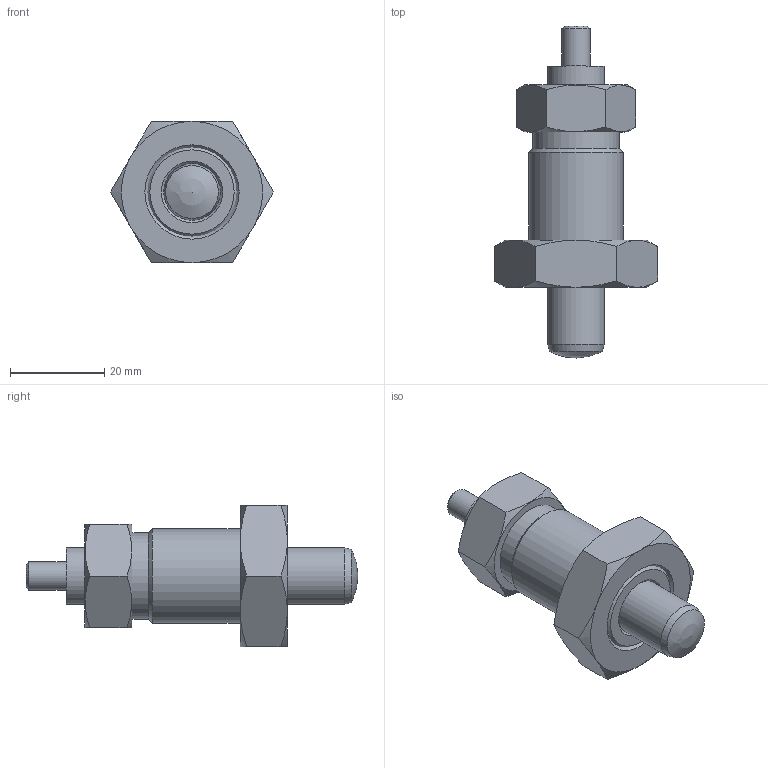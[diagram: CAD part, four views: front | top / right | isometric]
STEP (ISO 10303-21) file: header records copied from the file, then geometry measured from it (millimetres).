
FILE_DESCRIPTION( ( 'STEP AP203' ), '1' );
FILE_NAME( 'C:/Temp/Ganter_Step_05_03_2020/data/3_1/gn817/gn817_ni-rastbolzen/Stainless Steel-Indexing plunger GN 817-12-15-GK-NI (deactivated-0).stp', '2020-03-12T09:00:07', ( 'License CC BY-ND 4.0' ), ( 'CADENAS' ), ' ', 'PARTsolutions', ' ' );
FILE_SCHEMA( ( 'CONFIG_CONTROL_DESIGN' ) );
Length unit declared in the file: millimetre
Products named in the file (5): Stainless Steel-Indexing plunger GN 817-12-15-GK-NI (deactivated-0); _Stainless steel-Indexing plunger GN 817-12-15-GK-NI (deactivated-0)-d; _Stainless steel-Indexing plunger GN 817-12-15-B-NI-2; _Stainless Steel-Indexing plunger GN 817-12-15-G-NI-6; _Stainless steel-Indexing plunger GN 817-12-15-BK-NI (deactivated-0)-3
Assembly tree (4 placements, depth 2):
  Stainless Steel-Indexing plunger GN 817-12-15-GK-NI (deactivated-0)
    _Stainless steel-Indexing plunger GN 817-12-15-GK-NI (deactivated-0)-d
    _Stainless steel-Indexing plunger GN 817-12-15-B-NI-2
    _Stainless Steel-Indexing plunger GN 817-12-15-G-NI-6
    _Stainless steel-Indexing plunger GN 817-12-15-BK-NI (deactivated-0)-3
Bounding box: 34.64 x 70.5 x 30 mm (x, y, z)
Volume: 20877.6 mm3; surface area: 10166.1 mm2
Topology: 3 solids, 3 shells, 56 faces, 115 edges, 70 vertices
Faces by surface type: plane 22, cone 22, cylinder 9, torus 2, sphere 1
Full cylindrical faces by diameter (mm): 6 x1, 9 x2, 12 x3, 18.3 x1, 18.376 x1, 20 x1
Entity records: 1704 total; most frequent: CARTESIAN_POINT 501, DIRECTION 216, ORIENTED_EDGE 178, AXIS2_PLACEMENT_3D 102, EDGE_CURVE 89, EDGE_LOOP 86, FACE_OUTER_BOUND 67, VERTEX_POINT 66
